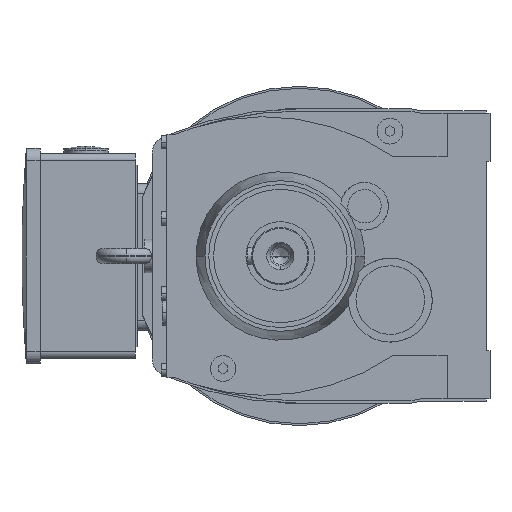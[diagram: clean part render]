
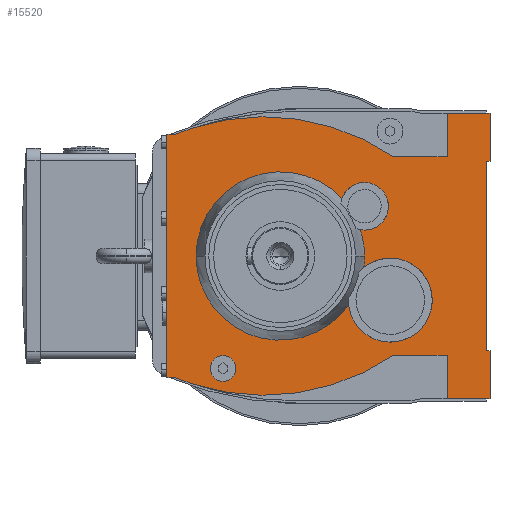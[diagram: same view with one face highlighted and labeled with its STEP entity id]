
A CAD part, left-side view. The second image highlights one B-rep face of the part: STEP entity #15520.
In plain terms, the highlighted planar face has unit normal (-1, 0, 0).
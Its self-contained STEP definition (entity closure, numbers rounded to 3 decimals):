
#9080=CARTESIAN_POINT('',(63.5,-175.,0.));
#9090=DIRECTION('',(0.,0.,-1.));
#9100=VECTOR('',#9090,1.);
#9110=LINE('',#9080,#9100);
#9120=CARTESIAN_POINT('',(63.5,-175.,-104.));
#9130=VERTEX_POINT('',#9120);
#9140=CARTESIAN_POINT('',(63.5,-175.,-150.));
#9150=VERTEX_POINT('',#9140);
#9160=EDGE_CURVE('',#9130,#9150,#9110,.T.);
#10890=CARTESIAN_POINT('',(63.5,-118.735,104.));
#10900=VERTEX_POINT('',#10890);
#11050=CARTESIAN_POINT('',(63.5,-175.,104.));
#11060=VERTEX_POINT('',#11050);
#11090=CARTESIAN_POINT('',(63.5,0.,104.));
#11100=DIRECTION('',(0.,1.,0.));
#11110=VECTOR('',#11100,1.);
#11120=LINE('',#11090,#11110);
#11130=EDGE_CURVE('',#11060,#10900,#11120,.T.);
#11230=CARTESIAN_POINT('',(63.5,111.,0.));
#11240=DIRECTION('',(0.,0.,-1.));
#11250=VECTOR('',#11240,1.);
#11260=LINE('',#11230,#11250);
#11270=CARTESIAN_POINT('',(63.5,111.,127.5));
#11280=VERTEX_POINT('',#11270);
#11290=CARTESIAN_POINT('',(63.5,111.,127.319));
#11300=VERTEX_POINT('',#11290);
#11310=EDGE_CURVE('',#11280,#11300,#11260,.T.);
#11720=CARTESIAN_POINT('',(63.5,0.,127.5));
#11730=DIRECTION('',(0.,1.,0.));
#11740=VECTOR('',#11730,1.);
#11750=LINE('',#11720,#11740);
#11760=CARTESIAN_POINT('',(63.5,119.,127.5));
#11770=VERTEX_POINT('',#11760);
#11780=EDGE_CURVE('',#11280,#11770,#11750,.T.);
#12420=CARTESIAN_POINT('',(63.5,111.,-127.319));
#12430=VERTEX_POINT('',#12420);
#12460=CARTESIAN_POINT('',(63.5,-20.,208.));
#12470=DIRECTION('',(-1.,0.,0.));
#12480=DIRECTION('',(0.,1.,0.));
#12490=AXIS2_PLACEMENT_3D('',#12460,#12470,#12480);
#12500=CIRCLE('',#12490,360.);
#12510=CARTESIAN_POINT('',(63.5,91.246,-134.38));
#12520=VERTEX_POINT('',#12510);
#12530=EDGE_CURVE('',#12430,#12520,#12500,.T.);
#13140=CARTESIAN_POINT('',(63.5,-118.735,-104.));
#13150=VERTEX_POINT('',#13140);
#13180=CARTESIAN_POINT('',(63.5,0.,-104.));
#13190=DIRECTION('',(0.,1.,0.));
#13200=VECTOR('',#13190,1.);
#13210=LINE('',#13180,#13200);
#13220=EDGE_CURVE('',#9130,#13150,#13210,.T.);
#13680=CARTESIAN_POINT('',(63.5,38.376,119.609));
#13690=DIRECTION('',(-1.,0.,0.));
#13700=DIRECTION('',(0.,-1.,0.));
#13710=AXIS2_PLACEMENT_3D('',#13680,#13690,#13700);
#13720=PLANE('',#13710);
#13730=ORIENTED_EDGE('',*,*,#12530,.T.);
#13740=CARTESIAN_POINT('',(63.5,111.,0.));
#13750=DIRECTION('',(0.,0.,-1.));
#13760=VECTOR('',#13750,1.);
#13770=LINE('',#13740,#13760);
#13780=CARTESIAN_POINT('',(63.5,111.,-127.5));
#13790=VERTEX_POINT('',#13780);
#13800=EDGE_CURVE('',#12430,#13790,#13770,.T.);
#13810=ORIENTED_EDGE('',*,*,#13800,.F.);
#13820=CARTESIAN_POINT('',(63.5,0.,-127.5));
#13830=DIRECTION('',(0.,-1.,0.));
#13840=VECTOR('',#13830,1.);
#13850=LINE('',#13820,#13840);
#13860=CARTESIAN_POINT('',(63.5,119.,-127.5));
#13870=VERTEX_POINT('',#13860);
#13880=EDGE_CURVE('',#13870,#13790,#13850,.T.);
#13890=ORIENTED_EDGE('',*,*,#13880,.T.);
#13900=CARTESIAN_POINT('',(63.5,119.,0.));
#13910=DIRECTION('',(0.,0.,-1.));
#13920=VECTOR('',#13910,1.);
#13930=LINE('',#13900,#13920);
#13940=EDGE_CURVE('',#11770,#13870,#13930,.T.);
#13950=ORIENTED_EDGE('',*,*,#13940,.T.);
#13960=ORIENTED_EDGE('',*,*,#11780,.T.);
#13970=ORIENTED_EDGE('',*,*,#11310,.F.);
#13980=CARTESIAN_POINT('',(63.5,-20.,-208.));
#13990=DIRECTION('',(1.,0.,0.));
#14000=DIRECTION('',(0.,1.,0.));
#14010=AXIS2_PLACEMENT_3D('',#13980,#13990,#14000);
#14020=CIRCLE('',#14010,360.);
#14030=CARTESIAN_POINT('',(63.5,91.246,134.38));
#14040=VERTEX_POINT('',#14030);
#14050=EDGE_CURVE('',#11300,#14040,#14020,.T.);
#14060=ORIENTED_EDGE('',*,*,#14050,.F.);
#14070=CARTESIAN_POINT('',(63.5,17.082,-93.873));
#14080=DIRECTION('',(-1.,0.,0.));
#14090=DIRECTION('',(0.,-1.,0.));
#14100=AXIS2_PLACEMENT_3D('',#14070,#14080,#14090);
#14110=CIRCLE('',#14100,240.);
#14120=EDGE_CURVE('',#10900,#14040,#14110,.T.);
#14130=ORIENTED_EDGE('',*,*,#14120,.T.);
#14140=ORIENTED_EDGE('',*,*,#11130,.T.);
#14150=CARTESIAN_POINT('',(63.5,-175.,0.));
#14160=DIRECTION('',(0.,0.,-1.));
#14170=VECTOR('',#14160,1.);
#14180=LINE('',#14150,#14170);
#14190=CARTESIAN_POINT('',(63.5,-175.,150.));
#14200=VERTEX_POINT('',#14190);
#14210=EDGE_CURVE('',#14200,#11060,#14180,.T.);
#14220=ORIENTED_EDGE('',*,*,#14210,.T.);
#14230=CARTESIAN_POINT('',(63.5,0.,150.));
#14240=DIRECTION('',(0.,-1.,0.));
#14250=VECTOR('',#14240,1.);
#14260=LINE('',#14230,#14250);
#14270=CARTESIAN_POINT('',(63.5,-220.,150.));
#14280=VERTEX_POINT('',#14270);
#14290=EDGE_CURVE('',#14200,#14280,#14260,.T.);
#14300=ORIENTED_EDGE('',*,*,#14290,.F.);
#14310=CARTESIAN_POINT('',(63.5,-220.,0.));
#14320=DIRECTION('',(0.,0.,1.));
#14330=VECTOR('',#14320,1.);
#14340=LINE('',#14310,#14330);
#14350=CARTESIAN_POINT('',(63.5,-220.,99.559));
#14360=VERTEX_POINT('',#14350);
#14370=EDGE_CURVE('',#14360,#14280,#14340,.T.);
#14380=ORIENTED_EDGE('',*,*,#14370,.T.);
#14390=CARTESIAN_POINT('',(63.5,0.,60.767));
#14400=DIRECTION('',(0.,-0.985,0.174));
#14410=VECTOR('',#14400,1.);
#14420=LINE('',#14390,#14410);
#14430=CARTESIAN_POINT('',(63.5,-216.,98.854));
#14440=VERTEX_POINT('',#14430);
#14450=EDGE_CURVE('',#14440,#14360,#14420,.T.);
#14460=ORIENTED_EDGE('',*,*,#14450,.T.);
#14470=CARTESIAN_POINT('',(63.5,-216.,0.));
#14480=DIRECTION('',(0.,0.,-1.));
#14490=VECTOR('',#14480,1.);
#14500=LINE('',#14470,#14490);
#14510=CARTESIAN_POINT('',(63.5,-216.,-98.854));
#14520=VERTEX_POINT('',#14510);
#14530=EDGE_CURVE('',#14440,#14520,#14500,.T.);
#14540=ORIENTED_EDGE('',*,*,#14530,.F.);
#14550=CARTESIAN_POINT('',(63.5,0.,-60.767));
#14560=DIRECTION('',(0.,-0.985,-0.174));
#14570=VECTOR('',#14560,1.);
#14580=LINE('',#14550,#14570);
#14590=CARTESIAN_POINT('',(63.5,-220.,-99.559));
#14600=VERTEX_POINT('',#14590);
#14610=EDGE_CURVE('',#14520,#14600,#14580,.T.);
#14620=ORIENTED_EDGE('',*,*,#14610,.F.);
#14630=CARTESIAN_POINT('',(63.5,-220.,0.));
#14640=DIRECTION('',(0.,0.,1.));
#14650=VECTOR('',#14640,1.);
#14660=LINE('',#14630,#14650);
#14670=CARTESIAN_POINT('',(63.5,-220.,-150.));
#14680=VERTEX_POINT('',#14670);
#14690=EDGE_CURVE('',#14680,#14600,#14660,.T.);
#14700=ORIENTED_EDGE('',*,*,#14690,.T.);
#14710=CARTESIAN_POINT('',(63.5,0.,-150.));
#14720=DIRECTION('',(0.,1.,0.));
#14730=VECTOR('',#14720,1.);
#14740=LINE('',#14710,#14730);
#14750=EDGE_CURVE('',#14680,#9150,#14740,.T.);
#14760=ORIENTED_EDGE('',*,*,#14750,.F.);
#14770=ORIENTED_EDGE('',*,*,#9160,.T.);
#14780=ORIENTED_EDGE('',*,*,#13220,.F.);
#14790=CARTESIAN_POINT('',(63.5,17.082,93.873));
#14800=DIRECTION('',(1.,0.,0.));
#14810=DIRECTION('',(0.,-1.,0.));
#14820=AXIS2_PLACEMENT_3D('',#14790,#14800,#14810);
#14830=CIRCLE('',#14820,240.);
#14840=EDGE_CURVE('',#13150,#12520,#14830,.T.);
#14850=ORIENTED_EDGE('',*,*,#14840,.F.);
#14860=EDGE_LOOP('',(#14850,#14780,#14770,#14760,#14700,#14620,#14540,#14460,#14380,#14300,#14220,#14140,#14130,#14060,#13970,#13960,#13950,#13890,#13810,#13730));
#14870=FACE_OUTER_BOUND('',#14860,.T.);
#14880=CARTESIAN_POINT('',(63.5,0.,0.));
#14890=DIRECTION('',(1.,0.,0.));
#14900=DIRECTION('',(0.,-1.,0.));
#14910=AXIS2_PLACEMENT_3D('',#14880,#14890,#14900);
#14920=CIRCLE('',#14910,88.345);
#14930=CARTESIAN_POINT('',(63.5,-71.688,-51.63));
#14940=VERTEX_POINT('',#14930);
#14950=CARTESIAN_POINT('',(63.5,88.345,0.));
#14960=VERTEX_POINT('',#14950);
#14970=EDGE_CURVE('',#14940,#14960,#14920,.T.);
#14980=ORIENTED_EDGE('',*,*,#14970,.T.);
#14990=CARTESIAN_POINT('',(63.5,-115.362,-46.282));
#15000=DIRECTION('',(1.,0.,0.));
#15010=DIRECTION('',(0.,-0.928,-0.372));
#15020=AXIS2_PLACEMENT_3D('',#14990,#15000,#15010);
#15030=CIRCLE('',#15020,44.);
#15040=CARTESIAN_POINT('',(63.5,-156.198,-62.665));
#15050=VERTEX_POINT('',#15040);
#15060=EDGE_CURVE('',#15050,#14940,#15030,.T.);
#15070=ORIENTED_EDGE('',*,*,#15060,.T.);
#15080=CARTESIAN_POINT('',(63.5,-87.494,-12.233));
#15090=VERTEX_POINT('',#15080);
#15100=EDGE_CURVE('',#15090,#15050,#15030,.T.);
#15110=ORIENTED_EDGE('',*,*,#15100,.T.);
#15120=CARTESIAN_POINT('',(63.5,-88.345,0.));
#15130=VERTEX_POINT('',#15120);
#15140=EDGE_CURVE('',#15130,#15090,#14920,.T.);
#15150=ORIENTED_EDGE('',*,*,#15140,.T.);
#15160=CARTESIAN_POINT('',(63.5,-83.931,27.578));
#15170=VERTEX_POINT('',#15160);
#15180=EDGE_CURVE('',#15170,#15130,#14920,.T.);
#15190=ORIENTED_EDGE('',*,*,#15180,.T.);
#15200=CARTESIAN_POINT('',(63.5,-88.359,52.182));
#15210=DIRECTION('',(1.,0.,0.));
#15220=DIRECTION('',(0.,-0.795,0.607));
#15230=AXIS2_PLACEMENT_3D('',#15200,#15210,#15220);
#15240=CIRCLE('',#15230,25.);
#15250=CARTESIAN_POINT('',(63.5,-108.231,67.352));
#15260=VERTEX_POINT('',#15250);
#15270=EDGE_CURVE('',#15260,#15170,#15240,.T.);
#15280=ORIENTED_EDGE('',*,*,#15270,.T.);
#15290=CARTESIAN_POINT('',(63.5,-64.675,60.184));
#15300=VERTEX_POINT('',#15290);
#15310=EDGE_CURVE('',#15300,#15260,#15240,.T.);
#15320=ORIENTED_EDGE('',*,*,#15310,.T.);
#15330=EDGE_CURVE('',#14960,#15300,#14920,.T.);
#15340=ORIENTED_EDGE('',*,*,#15330,.T.);
#15350=EDGE_LOOP('',(#15340,#15320,#15280,#15190,#15150,#15110,#15070,#14980));
#15360=FACE_BOUND('',#15350,.T.);
#15370=CARTESIAN_POINT('',(63.5,60.,-118.));
#15380=DIRECTION('',(-1.,0.,0.));
#15390=DIRECTION('',(0.,1.,0.));
#15400=AXIS2_PLACEMENT_3D('',#15370,#15380,#15390);
#15410=CIRCLE('',#15400,13.5);
#15420=CARTESIAN_POINT('',(63.5,73.5,-118.));
#15430=VERTEX_POINT('',#15420);
#15440=CARTESIAN_POINT('',(63.5,46.5,-118.));
#15450=VERTEX_POINT('',#15440);
#15460=EDGE_CURVE('',#15430,#15450,#15410,.T.);
#15470=ORIENTED_EDGE('',*,*,#15460,.F.);
#15480=EDGE_CURVE('',#15450,#15430,#15410,.T.);
#15490=ORIENTED_EDGE('',*,*,#15480,.F.);
#15500=EDGE_LOOP('',(#15490,#15470));
#15510=FACE_BOUND('',#15500,.T.);
#15520=ADVANCED_FACE('',(#14870,#15360,#15510),#13720,.T.);
